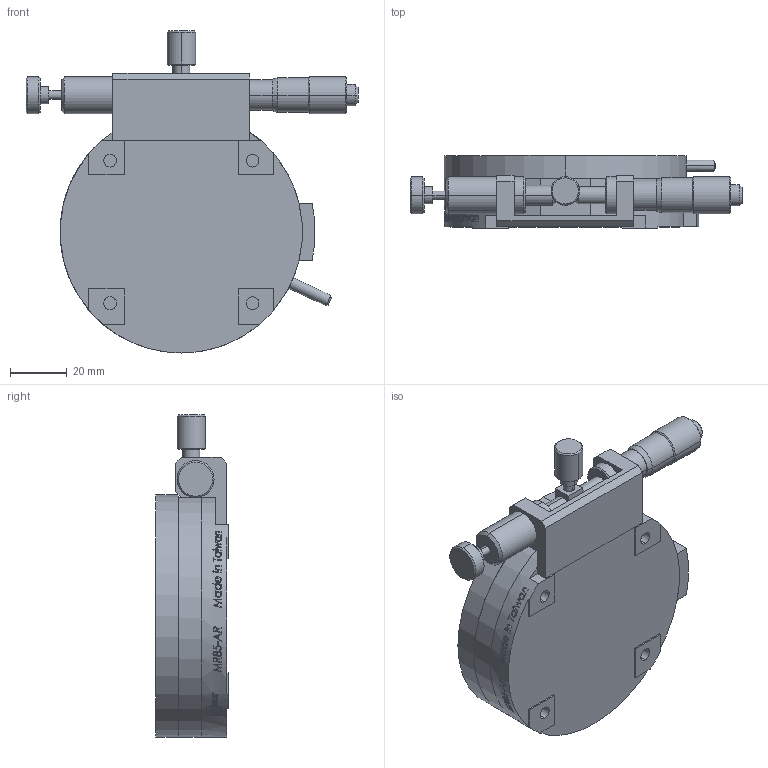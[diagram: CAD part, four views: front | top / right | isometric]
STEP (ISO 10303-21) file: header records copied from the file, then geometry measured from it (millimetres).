
FILE_DESCRIPTION (( 'STEP AP203' ), '1' );
FILE_NAME ('MR85-AR.STEP', '2008-07-19T02:24:37', ( '陳志豪' ), ( '高明鐵企業股份有限公司' ), 'SwSTEP 2.0', 'SolidWorks 2007', '' );
FILE_SCHEMA (( 'CONFIG_CONTROL_DESIGN' ));
Length unit declared in the file: millimetre
Products named in the file (1): MR85-AR
Bounding box: 116.5 x 25.5 x 113 mm (x, y, z)
Volume: 155263.3 mm3; surface area: 52654.8 mm2
Topology: 7 solids, 7 shells, 581 faces, 1492 edges, 967 vertices
Faces by surface type: bspline 225, plane 173, cylinder 128, cone 55
Entity records: 31166 total; most frequent: CARTESIAN_POINT 18872, ORIENTED_EDGE 2932, DIRECTION 1808, EDGE_CURVE 1466, VERTEX_POINT 967, B_SPLINE_CURVE_WITH_KNOTS 753, AXIS2_PLACEMENT_3D 738, EDGE_LOOP 665
